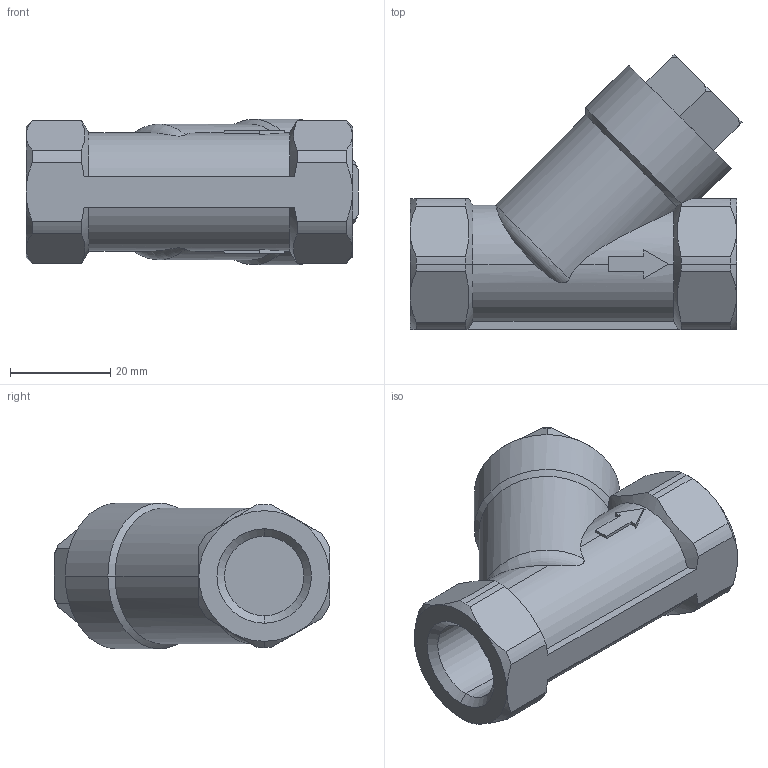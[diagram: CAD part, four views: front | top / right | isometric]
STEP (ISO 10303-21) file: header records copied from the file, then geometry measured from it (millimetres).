
FILE_DESCRIPTION (( 'STEP AP203' ), '1' );
FILE_NAME ('10.000.010.0.STEP', '2018-12-07T10:39:31', ( 'dell2' ), ( 'Microsoft' ), 'SwSTEP 2.0', 'SolidWorks 2017', '' );
FILE_SCHEMA (( 'CONFIG_CONTROL_DESIGN' ));
Length unit declared in the file: millimetre
Products named in the file (1): 10.000.010.0
Bounding box: 66.08 x 54.74 x 29 mm (x, y, z)
Volume: 47003 mm3; surface area: 10596.2 mm2
Topology: 1 solids, 1 shells, 102 faces, 264 edges, 167 vertices
Faces by surface type: plane 41, cone 32, cylinder 27, torus 2
Entity records: 3562 total; most frequent: CARTESIAN_POINT 1077, ORIENTED_EDGE 528, DIRECTION 481, EDGE_CURVE 264, AXIS2_PLACEMENT_3D 189, VERTEX_POINT 167, EDGE_LOOP 105, VECTOR 103
